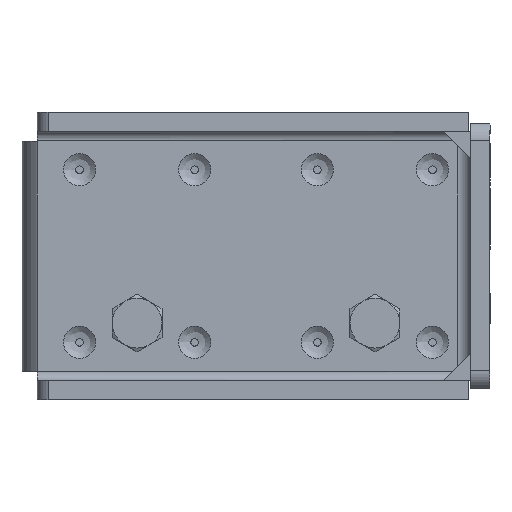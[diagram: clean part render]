
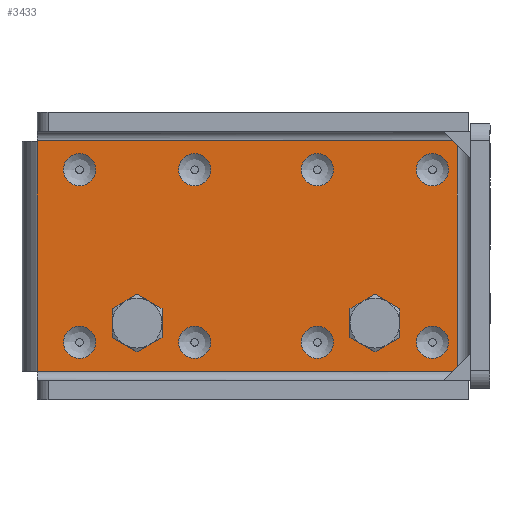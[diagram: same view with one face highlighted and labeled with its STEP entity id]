
A CAD part, top view. The second image highlights one B-rep face of the part: STEP entity #3433.
In plain terms, the highlighted planar face has unit normal (0, 0, 1).
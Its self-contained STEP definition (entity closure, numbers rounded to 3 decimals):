
#100=FACE_BOUND('',#712,.T.);
#101=FACE_BOUND('',#713,.T.);
#102=FACE_BOUND('',#714,.T.);
#103=FACE_BOUND('',#715,.T.);
#104=FACE_BOUND('',#716,.T.);
#105=FACE_BOUND('',#717,.T.);
#106=FACE_BOUND('',#718,.T.);
#107=FACE_BOUND('',#719,.T.);
#108=FACE_BOUND('',#720,.T.);
#109=FACE_BOUND('',#721,.T.);
#234=CIRCLE('',#3718,6.);
#235=CIRCLE('',#3719,6.);
#236=CIRCLE('',#3720,4.2);
#237=CIRCLE('',#3721,4.2);
#238=CIRCLE('',#3722,4.2);
#239=CIRCLE('',#3723,4.2);
#240=CIRCLE('',#3724,4.2);
#241=CIRCLE('',#3725,4.2);
#242=CIRCLE('',#3726,4.2);
#243=CIRCLE('',#3727,4.2);
#244=CIRCLE('',#3728,4.2);
#245=CIRCLE('',#3729,4.2);
#246=CIRCLE('',#3730,4.2);
#247=CIRCLE('',#3731,4.2);
#248=CIRCLE('',#3732,4.2);
#249=CIRCLE('',#3733,4.2);
#250=CIRCLE('',#3734,4.2);
#251=CIRCLE('',#3735,4.2);
#471=FACE_OUTER_BOUND('',#711,.T.);
#711=EDGE_LOOP('',(#2512,#2513,#2514,#2515));
#712=EDGE_LOOP('',(#2516));
#713=EDGE_LOOP('',(#2517));
#714=EDGE_LOOP('',(#2518,#2519));
#715=EDGE_LOOP('',(#2520,#2521));
#716=EDGE_LOOP('',(#2522,#2523));
#717=EDGE_LOOP('',(#2524,#2525));
#718=EDGE_LOOP('',(#2526,#2527));
#719=EDGE_LOOP('',(#2528,#2529));
#720=EDGE_LOOP('',(#2530,#2531));
#721=EDGE_LOOP('',(#2532,#2533));
#1013=LINE('',#5630,#1284);
#1023=LINE('',#5688,#1294);
#1024=LINE('',#5690,#1295);
#1025=LINE('',#5691,#1296);
#1284=VECTOR('',#4242,109.5);
#1294=VECTOR('',#4300,60.);
#1295=VECTOR('',#4301,109.5);
#1296=VECTOR('',#4302,60.);
#1541=VERTEX_POINT('',#5435);
#1544=VERTEX_POINT('',#5443);
#1570=VERTEX_POINT('',#5687);
#1571=VERTEX_POINT('',#5689);
#1572=VERTEX_POINT('',#5692);
#1573=VERTEX_POINT('',#5694);
#1574=VERTEX_POINT('',#5696);
#1575=VERTEX_POINT('',#5697);
#1576=VERTEX_POINT('',#5700);
#1577=VERTEX_POINT('',#5701);
#1578=VERTEX_POINT('',#5704);
#1579=VERTEX_POINT('',#5705);
#1580=VERTEX_POINT('',#5708);
#1581=VERTEX_POINT('',#5709);
#1582=VERTEX_POINT('',#5712);
#1583=VERTEX_POINT('',#5713);
#1584=VERTEX_POINT('',#5716);
#1585=VERTEX_POINT('',#5717);
#1586=VERTEX_POINT('',#5720);
#1587=VERTEX_POINT('',#5721);
#1588=VERTEX_POINT('',#5724);
#1589=VERTEX_POINT('',#5725);
#1894=EDGE_CURVE('',#1544,#1541,#1013,.T.);
#1923=EDGE_CURVE('',#1570,#1541,#1023,.T.);
#1924=EDGE_CURVE('',#1570,#1571,#1024,.T.);
#1925=EDGE_CURVE('',#1571,#1544,#1025,.T.);
#1926=EDGE_CURVE('',#1572,#1572,#234,.T.);
#1927=EDGE_CURVE('',#1573,#1573,#235,.T.);
#1928=EDGE_CURVE('',#1574,#1575,#236,.T.);
#1929=EDGE_CURVE('',#1575,#1574,#237,.T.);
#1930=EDGE_CURVE('',#1576,#1577,#238,.T.);
#1931=EDGE_CURVE('',#1577,#1576,#239,.T.);
#1932=EDGE_CURVE('',#1578,#1579,#240,.T.);
#1933=EDGE_CURVE('',#1579,#1578,#241,.T.);
#1934=EDGE_CURVE('',#1580,#1581,#242,.T.);
#1935=EDGE_CURVE('',#1581,#1580,#243,.T.);
#1936=EDGE_CURVE('',#1582,#1583,#244,.T.);
#1937=EDGE_CURVE('',#1583,#1582,#245,.T.);
#1938=EDGE_CURVE('',#1584,#1585,#246,.T.);
#1939=EDGE_CURVE('',#1585,#1584,#247,.T.);
#1940=EDGE_CURVE('',#1586,#1587,#248,.T.);
#1941=EDGE_CURVE('',#1587,#1586,#249,.T.);
#1942=EDGE_CURVE('',#1588,#1589,#250,.T.);
#1943=EDGE_CURVE('',#1589,#1588,#251,.T.);
#2512=ORIENTED_EDGE('',*,*,#1894,.T.);
#2513=ORIENTED_EDGE('',*,*,#1923,.F.);
#2514=ORIENTED_EDGE('',*,*,#1924,.T.);
#2515=ORIENTED_EDGE('',*,*,#1925,.T.);
#2516=ORIENTED_EDGE('',*,*,#1926,.T.);
#2517=ORIENTED_EDGE('',*,*,#1927,.T.);
#2518=ORIENTED_EDGE('',*,*,#1928,.T.);
#2519=ORIENTED_EDGE('',*,*,#1929,.T.);
#2520=ORIENTED_EDGE('',*,*,#1930,.T.);
#2521=ORIENTED_EDGE('',*,*,#1931,.T.);
#2522=ORIENTED_EDGE('',*,*,#1932,.T.);
#2523=ORIENTED_EDGE('',*,*,#1933,.T.);
#2524=ORIENTED_EDGE('',*,*,#1934,.T.);
#2525=ORIENTED_EDGE('',*,*,#1935,.T.);
#2526=ORIENTED_EDGE('',*,*,#1936,.T.);
#2527=ORIENTED_EDGE('',*,*,#1937,.T.);
#2528=ORIENTED_EDGE('',*,*,#1938,.T.);
#2529=ORIENTED_EDGE('',*,*,#1939,.T.);
#2530=ORIENTED_EDGE('',*,*,#1940,.T.);
#2531=ORIENTED_EDGE('',*,*,#1941,.T.);
#2532=ORIENTED_EDGE('',*,*,#1942,.T.);
#2533=ORIENTED_EDGE('',*,*,#1943,.T.);
#3275=PLANE('',#3717);
#3433=ADVANCED_FACE('',(#471,#100,#101,#102,#103,#104,#105,#106,#107,#108,
#109),#3275,.T.);
#3717=AXIS2_PLACEMENT_3D('',#5686,#4298,#4299);
#3718=AXIS2_PLACEMENT_3D('',#5693,#4303,#4304);
#3719=AXIS2_PLACEMENT_3D('',#5695,#4305,#4306);
#3720=AXIS2_PLACEMENT_3D('',#5698,#4307,#4308);
#3721=AXIS2_PLACEMENT_3D('',#5699,#4309,#4310);
#3722=AXIS2_PLACEMENT_3D('',#5702,#4311,#4312);
#3723=AXIS2_PLACEMENT_3D('',#5703,#4313,#4314);
#3724=AXIS2_PLACEMENT_3D('',#5706,#4315,#4316);
#3725=AXIS2_PLACEMENT_3D('',#5707,#4317,#4318);
#3726=AXIS2_PLACEMENT_3D('',#5710,#4319,#4320);
#3727=AXIS2_PLACEMENT_3D('',#5711,#4321,#4322);
#3728=AXIS2_PLACEMENT_3D('',#5714,#4323,#4324);
#3729=AXIS2_PLACEMENT_3D('',#5715,#4325,#4326);
#3730=AXIS2_PLACEMENT_3D('',#5718,#4327,#4328);
#3731=AXIS2_PLACEMENT_3D('',#5719,#4329,#4330);
#3732=AXIS2_PLACEMENT_3D('',#5722,#4331,#4332);
#3733=AXIS2_PLACEMENT_3D('',#5723,#4333,#4334);
#3734=AXIS2_PLACEMENT_3D('',#5726,#4335,#4336);
#3735=AXIS2_PLACEMENT_3D('',#5727,#4337,#4338);
#4242=DIRECTION('',(-1.,0.,0.));
#4298=DIRECTION('center_axis',(0.,0.,1.));
#4299=DIRECTION('ref_axis',(1.,0.,0.));
#4300=DIRECTION('',(0.,1.,0.));
#4301=DIRECTION('',(1.,0.,0.));
#4302=DIRECTION('',(0.,1.,0.));
#4303=DIRECTION('center_axis',(0.,0.,-1.));
#4304=DIRECTION('ref_axis',(-1.,0.,0.));
#4305=DIRECTION('center_axis',(0.,0.,-1.));
#4306=DIRECTION('ref_axis',(-1.,0.,0.));
#4307=DIRECTION('center_axis',(0.,0.,-1.));
#4308=DIRECTION('ref_axis',(-1.,0.,0.));
#4309=DIRECTION('center_axis',(0.,0.,-1.));
#4310=DIRECTION('ref_axis',(-1.,0.,0.));
#4311=DIRECTION('center_axis',(0.,0.,-1.));
#4312=DIRECTION('ref_axis',(-1.,0.,0.));
#4313=DIRECTION('center_axis',(0.,0.,-1.));
#4314=DIRECTION('ref_axis',(-1.,0.,0.));
#4315=DIRECTION('center_axis',(0.,0.,-1.));
#4316=DIRECTION('ref_axis',(-1.,0.,0.));
#4317=DIRECTION('center_axis',(0.,0.,-1.));
#4318=DIRECTION('ref_axis',(-1.,0.,0.));
#4319=DIRECTION('center_axis',(0.,0.,-1.));
#4320=DIRECTION('ref_axis',(-1.,0.,0.));
#4321=DIRECTION('center_axis',(0.,0.,-1.));
#4322=DIRECTION('ref_axis',(-1.,0.,0.));
#4323=DIRECTION('center_axis',(0.,0.,-1.));
#4324=DIRECTION('ref_axis',(-1.,0.,0.));
#4325=DIRECTION('center_axis',(0.,0.,-1.));
#4326=DIRECTION('ref_axis',(-1.,0.,0.));
#4327=DIRECTION('center_axis',(0.,0.,-1.));
#4328=DIRECTION('ref_axis',(-1.,0.,0.));
#4329=DIRECTION('center_axis',(0.,0.,-1.));
#4330=DIRECTION('ref_axis',(-1.,0.,0.));
#4331=DIRECTION('center_axis',(0.,0.,-1.));
#4332=DIRECTION('ref_axis',(-1.,0.,0.));
#4333=DIRECTION('center_axis',(0.,0.,-1.));
#4334=DIRECTION('ref_axis',(-1.,0.,0.));
#4335=DIRECTION('center_axis',(0.,0.,-1.));
#4336=DIRECTION('ref_axis',(-1.,0.,0.));
#4337=DIRECTION('center_axis',(0.,0.,-1.));
#4338=DIRECTION('ref_axis',(-1.,0.,0.));
#5435=CARTESIAN_POINT('',(0.,30.,5.));
#5443=CARTESIAN_POINT('',(109.5,30.,5.));
#5630=CARTESIAN_POINT('',(92.272,30.,5.));
#5686=CARTESIAN_POINT('Origin',(75.045,0.,5.));
#5687=CARTESIAN_POINT('',(0.,-30.,5.));
#5688=CARTESIAN_POINT('',(0.,40.5,5.));
#5689=CARTESIAN_POINT('',(109.5,-30.,5.));
#5690=CARTESIAN_POINT('',(37.522,-30.,5.));
#5691=CARTESIAN_POINT('',(109.5,-15.921,5.));
#5692=CARTESIAN_POINT('',(32.,-17.5,5.));
#5693=CARTESIAN_POINT('Origin',(26.,-17.5,5.));
#5694=CARTESIAN_POINT('',(94.,-17.5,5.));
#5695=CARTESIAN_POINT('Origin',(88.,-17.5,5.));
#5696=CARTESIAN_POINT('',(77.2,22.5,5.));
#5697=CARTESIAN_POINT('',(68.8,22.5,5.));
#5698=CARTESIAN_POINT('Origin',(73.,22.5,5.));
#5699=CARTESIAN_POINT('Origin',(73.,22.5,5.));
#5700=CARTESIAN_POINT('',(107.2,-22.5,5.));
#5701=CARTESIAN_POINT('',(98.8,-22.5,5.));
#5702=CARTESIAN_POINT('Origin',(103.,-22.5,5.));
#5703=CARTESIAN_POINT('Origin',(103.,-22.5,5.));
#5704=CARTESIAN_POINT('',(45.2,22.5,5.));
#5705=CARTESIAN_POINT('',(36.8,22.5,5.));
#5706=CARTESIAN_POINT('Origin',(41.,22.5,5.));
#5707=CARTESIAN_POINT('Origin',(41.,22.5,5.));
#5708=CARTESIAN_POINT('',(77.2,-22.5,5.));
#5709=CARTESIAN_POINT('',(68.8,-22.5,5.));
#5710=CARTESIAN_POINT('Origin',(73.,-22.5,5.));
#5711=CARTESIAN_POINT('Origin',(73.,-22.5,5.));
#5712=CARTESIAN_POINT('',(45.2,-22.5,5.));
#5713=CARTESIAN_POINT('',(36.8,-22.5,5.));
#5714=CARTESIAN_POINT('Origin',(41.,-22.5,5.));
#5715=CARTESIAN_POINT('Origin',(41.,-22.5,5.));
#5716=CARTESIAN_POINT('',(15.2,22.5,5.));
#5717=CARTESIAN_POINT('',(6.8,22.5,5.));
#5718=CARTESIAN_POINT('Origin',(11.,22.5,5.));
#5719=CARTESIAN_POINT('Origin',(11.,22.5,5.));
#5720=CARTESIAN_POINT('',(15.2,-22.5,5.));
#5721=CARTESIAN_POINT('',(6.8,-22.5,5.));
#5722=CARTESIAN_POINT('Origin',(11.,-22.5,5.));
#5723=CARTESIAN_POINT('Origin',(11.,-22.5,5.));
#5724=CARTESIAN_POINT('',(107.2,22.5,5.));
#5725=CARTESIAN_POINT('',(98.8,22.5,5.));
#5726=CARTESIAN_POINT('Origin',(103.,22.5,5.));
#5727=CARTESIAN_POINT('Origin',(103.,22.5,5.));
